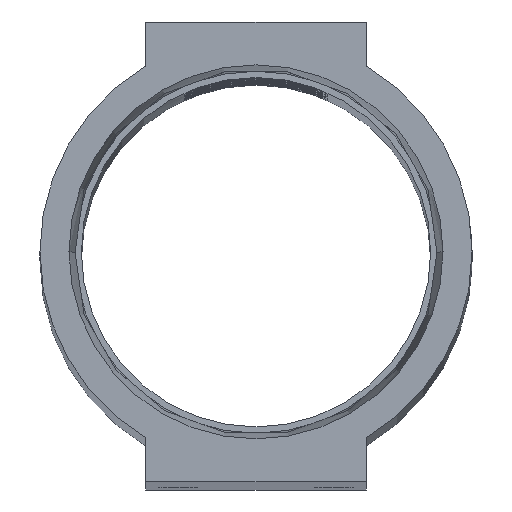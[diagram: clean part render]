
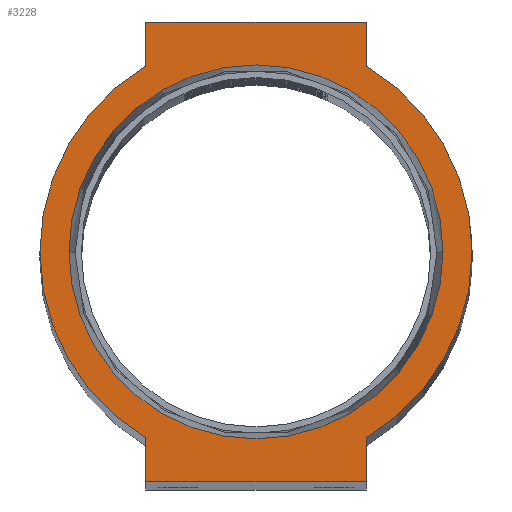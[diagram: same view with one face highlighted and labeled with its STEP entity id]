
A CAD part, top view. The second image highlights one B-rep face of the part: STEP entity #3228.
In plain terms, the highlighted planar face has unit normal (0, 0, 1).
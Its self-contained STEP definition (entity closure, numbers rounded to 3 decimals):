
#11 = VERTEX_POINT ( 'NONE', #1854 ) ;
#33 = VERTEX_POINT ( 'NONE', #3295 ) ;
#87 = DIRECTION ( 'NONE',  ( 0., 0., 1. ) ) ;
#149 = CARTESIAN_POINT ( 'NONE',  ( 0., 0., 0. ) ) ;
#348 = VECTOR ( 'NONE', #4278, 1000. ) ;
#519 = VERTEX_POINT ( 'NONE', #8978 ) ;
#625 = VERTEX_POINT ( 'NONE', #14351 ) ;
#780 = VECTOR ( 'NONE', #7686, 1000. ) ;
#981 = DIRECTION ( 'NONE',  ( 0., 0., 1. ) ) ;
#1034 = AXIS2_PLACEMENT_3D ( 'NONE', #5524, #981, #1202 ) ;
#1173 = ORIENTED_EDGE ( 'NONE', *, *, #7478, .F. ) ;
#1202 = DIRECTION ( 'NONE',  ( 1., 0., 0. ) ) ;
#1511 = AXIS2_PLACEMENT_3D ( 'NONE', #13158, #8836, #8682 ) ;
#1692 = EDGE_CURVE ( 'NONE', #11, #10175, #10942, .T. ) ;
#1854 = CARTESIAN_POINT ( 'NONE',  ( 12., 20.205, 0. ) ) ;
#1990 = LINE ( 'NONE', #3305, #780 ) ;
#2182 = VERTEX_POINT ( 'NONE', #12985 ) ;
#2537 = CARTESIAN_POINT ( 'NONE',  ( -12., -25., 0. ) ) ;
#2996 = VERTEX_POINT ( 'NONE', #10946 ) ;
#3019 = DIRECTION ( 'NONE',  ( 0., 1., 0. ) ) ;
#3074 = EDGE_CURVE ( 'NONE', #10175, #5366, #11507, .T. ) ;
#3221 = EDGE_LOOP ( 'NONE', ( #10978, #5942, #14473, #8674, #12464, #6800, #9564, #9020, #10484 ) ) ;
#3228 = ADVANCED_FACE ( 'NONE', ( #11658, #3836 ), #7391, .T. ) ;
#3275 = DIRECTION ( 'NONE',  ( 0., -1., 0. ) ) ;
#3295 = CARTESIAN_POINT ( 'NONE',  ( -12., -20.205, 0. ) ) ;
#3305 = CARTESIAN_POINT ( 'NONE',  ( -12., -25., 0. ) ) ;
#3436 = EDGE_LOOP ( 'NONE', ( #11952, #1173 ) ) ;
#3836 = FACE_OUTER_BOUND ( 'NONE', #3221, .T. ) ;
#4061 = CARTESIAN_POINT ( 'NONE',  ( -12., 20.205, 0. ) ) ;
#4278 = DIRECTION ( 'NONE',  ( 0., 1., 0. ) ) ;
#4437 = DIRECTION ( 'NONE',  ( 1., 0., 0. ) ) ;
#4488 = DIRECTION ( 'NONE',  ( 0., 0., 1. ) ) ;
#4990 = CARTESIAN_POINT ( 'NONE',  ( 12., -20.205, 0. ) ) ;
#5100 = CARTESIAN_POINT ( 'NONE',  ( 12., 25., 0. ) ) ;
#5213 = EDGE_CURVE ( 'NONE', #6036, #33, #9416, .T. ) ;
#5258 = EDGE_CURVE ( 'NONE', #2182, #11, #12460, .T. ) ;
#5366 = VERTEX_POINT ( 'NONE', #12892 ) ;
#5524 = CARTESIAN_POINT ( 'NONE',  ( 0., 0., 0. ) ) ;
#5547 = CARTESIAN_POINT ( 'NONE',  ( -20.34, 0., 0. ) ) ;
#5942 = ORIENTED_EDGE ( 'NONE', *, *, #3074, .T. ) ;
#5958 = LINE ( 'NONE', #2537, #13177 ) ;
#6036 = VERTEX_POINT ( 'NONE', #4061 ) ;
#6084 = EDGE_CURVE ( 'NONE', #10326, #2182, #8717, .T. ) ;
#6121 = AXIS2_PLACEMENT_3D ( 'NONE', #12406, #87, #4437 ) ;
#6462 = CARTESIAN_POINT ( 'NONE',  ( 12., 25., 0. ) ) ;
#6490 = LINE ( 'NONE', #7655, #9002 ) ;
#6800 = ORIENTED_EDGE ( 'NONE', *, *, #11384, .T. ) ;
#6959 = CARTESIAN_POINT ( 'NONE',  ( 0., 0., 0. ) ) ;
#7066 = AXIS2_PLACEMENT_3D ( 'NONE', #149, #4488, #8927 ) ;
#7086 = CIRCLE ( 'NONE', #14394, 20.34 ) ;
#7181 = DIRECTION ( 'NONE',  ( 1., 0., 0. ) ) ;
#7391 = PLANE ( 'NONE',  #13421 ) ;
#7478 = EDGE_CURVE ( 'NONE', #12099, #519, #14167, .T. ) ;
#7655 = CARTESIAN_POINT ( 'NONE',  ( -12., 25., 0. ) ) ;
#7686 = DIRECTION ( 'NONE',  ( 0., -1., 0. ) ) ;
#7913 = DIRECTION ( 'NONE',  ( 0., 0., 1. ) ) ;
#7986 = CARTESIAN_POINT ( 'NONE',  ( -12., 25., 0. ) ) ;
#8674 = ORIENTED_EDGE ( 'NONE', *, *, #5213, .T. ) ;
#8682 = DIRECTION ( 'NONE',  ( 1., 0., 0. ) ) ;
#8717 = CIRCLE ( 'NONE', #7066, 23.5 ) ;
#8836 = DIRECTION ( 'NONE',  ( 0., 0., 1. ) ) ;
#8869 = LINE ( 'NONE', #13122, #12015 ) ;
#8927 = DIRECTION ( 'NONE',  ( 1., 0., 0. ) ) ;
#8978 = CARTESIAN_POINT ( 'NONE',  ( 20.34, 0., 0. ) ) ;
#9002 = VECTOR ( 'NONE', #3275, 1000. ) ;
#9020 = ORIENTED_EDGE ( 'NONE', *, *, #6084, .T. ) ;
#9159 = DIRECTION ( 'NONE',  ( 1., 0., 0. ) ) ;
#9332 = DIRECTION ( 'NONE',  ( 1., 0., 0. ) ) ;
#9416 = CIRCLE ( 'NONE', #1034, 23.5 ) ;
#9564 = ORIENTED_EDGE ( 'NONE', *, *, #12889, .T. ) ;
#10175 = VERTEX_POINT ( 'NONE', #5100 ) ;
#10326 = VERTEX_POINT ( 'NONE', #4990 ) ;
#10484 = ORIENTED_EDGE ( 'NONE', *, *, #5258, .T. ) ;
#10942 = LINE ( 'NONE', #6462, #348 ) ;
#10946 = CARTESIAN_POINT ( 'NONE',  ( 12., -25., 0. ) ) ;
#10978 = ORIENTED_EDGE ( 'NONE', *, *, #1692, .T. ) ;
#11384 = EDGE_CURVE ( 'NONE', #625, #2996, #5958, .T. ) ;
#11507 = LINE ( 'NONE', #7986, #12935 ) ;
#11658 = FACE_BOUND ( 'NONE', #3436, .T. ) ;
#11952 = ORIENTED_EDGE ( 'NONE', *, *, #13007, .F. ) ;
#12015 = VECTOR ( 'NONE', #3019, 1000. ) ;
#12099 = VERTEX_POINT ( 'NONE', #5547 ) ;
#12406 = CARTESIAN_POINT ( 'NONE',  ( 0., 0., 0. ) ) ;
#12460 = CIRCLE ( 'NONE', #6121, 23.5 ) ;
#12464 = ORIENTED_EDGE ( 'NONE', *, *, #12898, .T. ) ;
#12469 = DIRECTION ( 'NONE',  ( -1., 0., 0. ) ) ;
#12889 = EDGE_CURVE ( 'NONE', #2996, #10326, #8869, .T. ) ;
#12892 = CARTESIAN_POINT ( 'NONE',  ( -12., 25., 0. ) ) ;
#12898 = EDGE_CURVE ( 'NONE', #33, #625, #1990, .T. ) ;
#12935 = VECTOR ( 'NONE', #12469, 1000. ) ;
#12985 = CARTESIAN_POINT ( 'NONE',  ( 23.5, 0., 0. ) ) ;
#13007 = EDGE_CURVE ( 'NONE', #519, #12099, #7086, .T. ) ;
#13122 = CARTESIAN_POINT ( 'NONE',  ( 12., -25., 0. ) ) ;
#13158 = CARTESIAN_POINT ( 'NONE',  ( 0., 0., 0. ) ) ;
#13177 = VECTOR ( 'NONE', #9332, 1000. ) ;
#13421 = AXIS2_PLACEMENT_3D ( 'NONE', #13794, #13958, #7181 ) ;
#13794 = CARTESIAN_POINT ( 'NONE',  ( 0., 0., 0. ) ) ;
#13958 = DIRECTION ( 'NONE',  ( 0., 0., 1. ) ) ;
#14167 = CIRCLE ( 'NONE', #1511, 20.34 ) ;
#14190 = EDGE_CURVE ( 'NONE', #5366, #6036, #6490, .T. ) ;
#14351 = CARTESIAN_POINT ( 'NONE',  ( -12., -25., 0. ) ) ;
#14394 = AXIS2_PLACEMENT_3D ( 'NONE', #6959, #7913, #9159 ) ;
#14473 = ORIENTED_EDGE ( 'NONE', *, *, #14190, .T. ) ;
